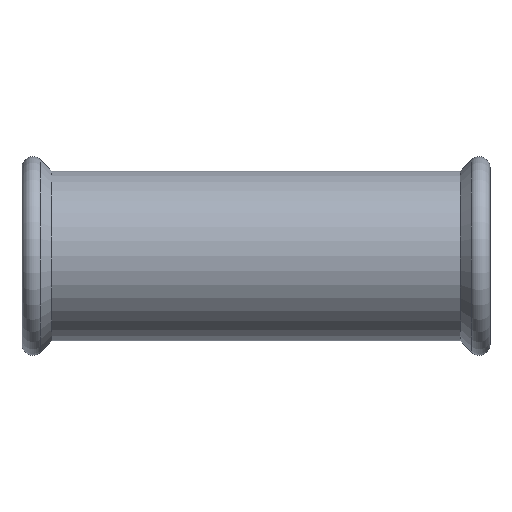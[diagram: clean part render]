
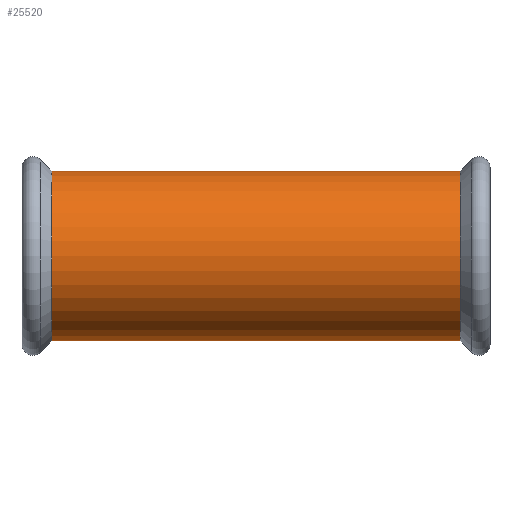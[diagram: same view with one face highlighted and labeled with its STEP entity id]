
A CAD part, top view. The second image highlights one B-rep face of the part: STEP entity #25520.
In plain terms, the highlighted cylindrical face has radius 46.85 mm (diameter 93.7 mm), a partial arc.
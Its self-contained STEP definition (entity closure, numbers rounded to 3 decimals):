
#2160=CARTESIAN_POINT('',(54.615,-46.85,0.));
#2170=VERTEX_POINT('',#2160);
#2350=CARTESIAN_POINT('',(54.615,46.85,0.))
;
#2360=VERTEX_POINT('',#2350);
#2390=CARTESIAN_POINT('',(54.615,0.,0.));
#2400=DIRECTION('',(1.,0.,0.));
#2410=DIRECTION('',(0.,1.,0.));
#2420=AXIS2_PLACEMENT_3D('',#2390,#2400,#2410);
#2430=CIRCLE('',#2420,46.85);
#3230=CARTESIAN_POINT('',(45.44,0.,0.));
#3240=DIRECTION('',(-1.,0.,0.));
#3250=DIRECTION('',(0.,1.,0.));
#3260=AXIS2_PLACEMENT_3D('',#3230,#3240,#3250);
#3270=CYLINDRICAL_SURFACE('',#3260,46.85);
#3280=CARTESIAN_POINT('',(45.44,-46.85,0.)
);
#3290=DIRECTION('',(-1.,0.,0.));
#3300=VECTOR('',#3290,1.);
#3310=LINE('',#3280,#3300);
#3320=CARTESIAN_POINT('',(-170.615,-46.85,0.
));
#3330=VERTEX_POINT('',#3320);
#3340=EDGE_CURVE('',#2170,#3330,#3310,.T.);
#3370=CARTESIAN_POINT('',(45.44,46.85,0.));
#3380=DIRECTION('',(-1.,0.,0.));
#3390=VECTOR('',#3380,1.);
#3400=LINE('',#3370,#3390);
#3410=CARTESIAN_POINT('',(-170.615,46.85,0.));
#3420=VERTEX_POINT('',#3410);
#3430=EDGE_CURVE('',#2360,#3420,#3400,.T.);
#3450=CARTESIAN_POINT('',(-170.615,0.,0.));
#3460=DIRECTION('',(-1.,0.,0.));
#3470=DIRECTION('',(0.,-1.,0.));
#3480=AXIS2_PLACEMENT_3D('',#3450,#3460,#3470);
#3490=CIRCLE('',#3480,46.85);
#24940=EDGE_CURVE('',#2360,#2170,#2430,.T.);
#25450=EDGE_CURVE('',#3330,#3420,#3490,.T.);
#25460=ORIENTED_EDGE('',*,*,#25450,.F.);
#25470=ORIENTED_EDGE('',*,*,#3430,.T.);
#25480=ORIENTED_EDGE('',*,*,#24940,.F.);
#25490=ORIENTED_EDGE('',*,*,#3340,.F.);
#25500=EDGE_LOOP('',(#25490,#25480,#25470,#25460));
#25510=FACE_OUTER_BOUND('',#25500,.T.);
#25520=ADVANCED_FACE('',(#25510),#3270,.T.);
